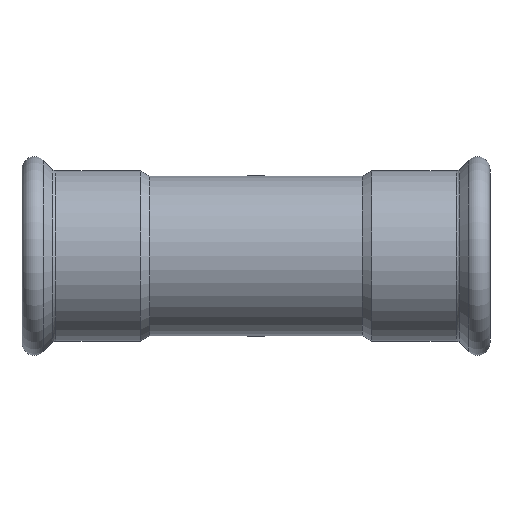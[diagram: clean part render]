
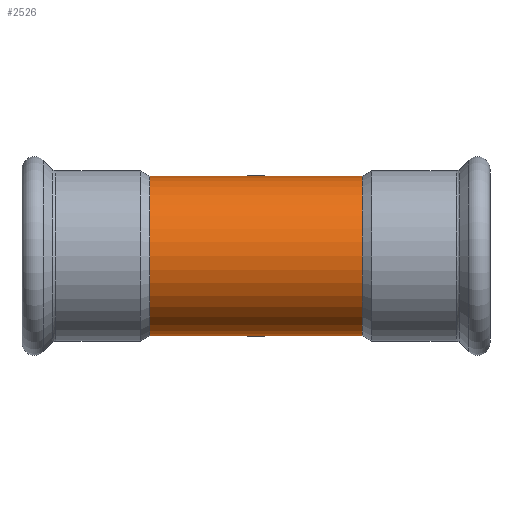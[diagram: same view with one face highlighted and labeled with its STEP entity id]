
A CAD part, front view. The second image highlights one B-rep face of the part: STEP entity #2526.
In plain terms, the highlighted cylindrical face has radius 32 mm (diameter 64 mm), a full revolution.
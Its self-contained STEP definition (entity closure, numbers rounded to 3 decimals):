
#2289=CARTESIAN_POINT('',(0.,16.704,27.294));
#2290=VERTEX_POINT('',#2289);
#2387=CARTESIAN_POINT('',(0.,16.704,27.294));
#2388=CARTESIAN_POINT('',(0.145,16.704,27.294));
#2389=CARTESIAN_POINT('',(1.016,16.714,27.288));
#2390=CARTESIAN_POINT('',(2.174,16.808,27.23));
#2391=CARTESIAN_POINT('',(3.599,17.035,27.089));
#2392=CARTESIAN_POINT('',(5.002,17.332,26.901));
#2393=CARTESIAN_POINT('',(7.19,17.972,26.483));
#2394=CARTESIAN_POINT('',(9.272,18.82,25.891));
#2395=CARTESIAN_POINT('',(10.75,19.526,25.353));
#2396=CARTESIAN_POINT('',(11.533,19.919,25.046));
#2397=CARTESIAN_POINT('',(12.124,20.227,24.798));
#2398=CARTESIAN_POINT('',(13.638,21.048,24.117));
#2399=CARTESIAN_POINT('',(15.588,22.208,23.076));
#2400=CARTESIAN_POINT('',(18.08,23.829,21.398));
#2401=CARTESIAN_POINT('',(19.811,25.028,19.968));
#2402=CARTESIAN_POINT('',(20.891,25.799,18.936));
#2403=CARTESIAN_POINT('',(21.593,26.306,18.228));
#2404=CARTESIAN_POINT('',(22.929,27.282,16.788));
#2405=CARTESIAN_POINT('',(24.369,28.37,14.89));
#2406=CARTESIAN_POINT('',(25.615,29.329,12.828));
#2407=CARTESIAN_POINT('',(26.261,29.831,11.604));
#2408=CARTESIAN_POINT('',(27.224,30.585,9.54));
#2409=CARTESIAN_POINT('',(27.951,31.161,7.466));
#2410=CARTESIAN_POINT('',(28.442,31.553,5.365));
#2411=CARTESIAN_POINT('',(28.712,31.769,3.945));
#2412=CARTESIAN_POINT('',(28.915,31.932,2.367));
#2413=CARTESIAN_POINT('',(29.002,32.001,0.731));
#2414=CARTESIAN_POINT('',(29.002,32.002,-0.727));
#2415=CARTESIAN_POINT('',(28.915,31.932,-2.365));
#2416=CARTESIAN_POINT('',(28.661,31.728,-4.346));
#2417=CARTESIAN_POINT('',(28.205,31.364,-6.468));
#2418=CARTESIAN_POINT('',(27.583,30.87,-8.515));
#2419=CARTESIAN_POINT('',(26.541,30.048,-11.155));
#2420=CARTESIAN_POINT('',(25.371,29.137,-13.311));
#2421=CARTESIAN_POINT('',(24.106,28.173,-15.192));
#2422=CARTESIAN_POINT('',(23.299,27.564,-16.274));
#2423=CARTESIAN_POINT('',(21.788,26.442,-18.082));
#2424=CARTESIAN_POINT('',(19.547,24.825,-20.286));
#2425=CARTESIAN_POINT('',(17.063,23.153,-22.122));
#2426=CARTESIAN_POINT('',(15.137,21.949,-23.293));
#2427=CARTESIAN_POINT('',(13.964,21.248,-23.934));
#2428=CARTESIAN_POINT('',(11.91,20.087,-24.933));
#2429=CARTESIAN_POINT('',(9.559,18.912,-25.83));
#2430=CARTESIAN_POINT('',(6.781,17.849,-26.564));
#2431=CARTESIAN_POINT('',(4.589,17.213,-26.978));
#2432=CARTESIAN_POINT('',(2.321,16.801,-27.235));
#2433=CARTESIAN_POINT('',(-0.002,16.656,-27.324));
#2434=CARTESIAN_POINT('',(-2.325,16.801,-27.235));
#2435=CARTESIAN_POINT('',(-5.349,17.352,-26.892));
#2436=CARTESIAN_POINT('',(-8.22,18.348,-26.236));
#2437=CARTESIAN_POINT('',(-10.554,19.423,-25.437));
#2438=CARTESIAN_POINT('',(-11.829,20.07,-24.927));
#2439=CARTESIAN_POINT('',(-13.702,21.075,-24.101));
#2440=CARTESIAN_POINT('',(-16.36,22.679,-22.645));
#2441=CARTESIAN_POINT('',(-18.859,24.362,-20.792));
#2442=CARTESIAN_POINT('',(-20.506,25.523,-19.314));
#2443=CARTESIAN_POINT('',(-22.397,26.882,-17.45));
#2444=CARTESIAN_POINT('',(-24.098,28.162,-15.325));
#2445=CARTESIAN_POINT('',(-25.526,29.26,-12.976));
#2446=CARTESIAN_POINT('',(-26.842,30.282,-10.544));
#2447=CARTESIAN_POINT('',(-27.954,31.164,-7.639));
#2448=CARTESIAN_POINT('',(-28.66,31.727,-4.35));
#2449=CARTESIAN_POINT('',(-29.031,32.025,-1.464));
#2450=CARTESIAN_POINT('',(-29.031,32.025,2.196));
#2451=CARTESIAN_POINT('',(-28.413,31.529,5.785));
#2452=CARTESIAN_POINT('',(-27.582,30.869,8.517));
#2453=CARTESIAN_POINT('',(-26.367,29.911,11.598));
#2454=CARTESIAN_POINT('',(-24.845,28.729,14.223));
#2455=CARTESIAN_POINT('',(-23.217,27.504,16.372));
#2456=CARTESIAN_POINT('',(-21.993,26.594,17.836));
#2457=CARTESIAN_POINT('',(-20.271,25.346,19.59));
#2458=CARTESIAN_POINT('',(-17.952,23.742,21.501));
#2459=CARTESIAN_POINT('',(-15.866,22.391,22.882));
#2460=CARTESIAN_POINT('',(-14.117,21.337,23.856));
#2461=CARTESIAN_POINT('',(-12.295,20.3,24.753));
#2462=CARTESIAN_POINT('',(-9.893,19.072,25.714));
#2463=CARTESIAN_POINT('',(-6.805,17.816,26.593));
#2464=CARTESIAN_POINT('',(-3.479,16.924,27.162));
#2465=CARTESIAN_POINT('',(-1.162,16.704,27.294));
#2466=CARTESIAN_POINT('',(0.,16.704,27.294));
#2467=CARTESIAN_POINT('',(0.,16.704,27.294));
#2468=CARTESIAN_POINT('',(0.,16.704,27.294));
#2469=CARTESIAN_POINT('',(0.,16.704,27.294));
#2470=B_SPLINE_CURVE_WITH_KNOTS('',3,(#2387,#2388,#2389,#2390,#2391,#2392,#2393,#2394,#2395,#2396,#2397,#2398,#2399,#2400,#2401,#2402,#2403,#2404,#2405,#2406,#2407,#2408,#2409,#2410,#2411,#2412,#2413,#2414,#2415,#2416,#2417,#2418,#2419,#2420,#2421,#2422,#2423,#2424,#2425,#2426,#2427,#2428,#2429,#2430,#2431,#2432,#2433,#2434,#2435,#2436,#2437,#2438,#2439,#2440,#2441,#2442,#2443,#2444,#2445,#2446,#2447,#2448,#2449,#2450,#2451,#2452,#2453,#2454,#2455,#2456,#2457,#2458,#2459,#2460,#2461,#2462,#2463,#2464,#2465,#2466,#2467,#2468,#2469),.UNSPECIFIED.,.T.,.U.,(4,1,1,1,1,1,1,1,1,1,1,1,1,1,1,1,1,1,1,1,1,1,1,1,1,1,1,1,1,1,1,1,1,1,1,1,1,1,1,1,1,1,1,1,1,1,1,1,1,1,1,1,1,1,1,1,1,1,1,1,1,1,1,1,1,1,1,1,1,1,1,1,1,1,1,1,1,3,4),(-17.693,-17.654,-17.457,-17.378,-17.259,-17.062,-16.746,-16.627,-16.588,-16.489,-16.43,-16.074,-15.798,-15.482,-15.363,-15.324,-15.166,-14.745,-14.587,-14.429,-14.323,-13.902,-13.784,-13.691,-13.481,-13.323,-13.217,-13.059,-12.849,-12.638,-12.428,-12.217,-11.796,-11.69,-11.519,-11.374,-10.953,-10.532,-10.4,-10.242,-10.111,-9.689,-9.479,-9.268,-9.057,-8.847,-8.636,-8.425,-8.004,-7.794,-7.688,-7.583,-7.162,-6.74,-6.6,-6.46,-5.898,-5.757,-5.617,-5.055,-4.845,-4.634,-4.213,-3.791,-3.581,-3.37,-2.808,-2.668,-2.528,-2.212,-1.896,-1.58,-1.422,-1.264,-0.948,-0.632,-0.316,0.0,0.),.UNSPECIFIED.);
#2471=EDGE_CURVE('',#2290,#2290,#2470,.T.);
#2496=CARTESIAN_POINT('',(0.,0.,0.0));
#2497=DIRECTION('',(1.0,0.,0.0));
#2498=DIRECTION('',(0.0,1.0,0.0));
#2499=AXIS2_PLACEMENT_3D('',#2496,#2497,#2498);
#2500=CYLINDRICAL_SURFACE('',#2499,32.);
#2501=CARTESIAN_POINT('',(-42.654,32.,0.0));
#2502=VERTEX_POINT('',#2501);
#2503=CARTESIAN_POINT('',(-42.654,0.,0.0));
#2504=DIRECTION('',(1.0,0.0,0.0));
#2505=DIRECTION('',(0.0,1.0,0.0));
#2506=AXIS2_PLACEMENT_3D('',#2503,#2504,#2505);
#2507=CIRCLE('',#2506,32.);
#2508=EDGE_CURVE('',#2502,#2502,#2507,.T.);
#2509=ORIENTED_EDGE('',*,*,#2508,.T.);
#2510=EDGE_LOOP('',(#2509));
#2511=FACE_OUTER_BOUND('',#2510,.T.);
#2512=CARTESIAN_POINT('',(42.654,32.,0.0));
#2513=VERTEX_POINT('',#2512);
#2514=CARTESIAN_POINT('',(42.654,0.,0.0));
#2515=DIRECTION('',(1.0,0.0,0.0));
#2516=DIRECTION('',(0.0,1.0,0.0));
#2517=AXIS2_PLACEMENT_3D('',#2514,#2515,#2516);
#2518=CIRCLE('',#2517,32.);
#2519=EDGE_CURVE('',#2513,#2513,#2518,.T.);
#2520=ORIENTED_EDGE('',*,*,#2519,.F.);
#2521=EDGE_LOOP('',(#2520));
#2522=FACE_BOUND('',#2521,.T.);
#2523=ORIENTED_EDGE('',*,*,#2471,.F.);
#2524=EDGE_LOOP('',(#2523));
#2525=FACE_BOUND('',#2524,.T.);
#2526=ADVANCED_FACE('',(#2511,#2522,#2525),#2500,.T.);
